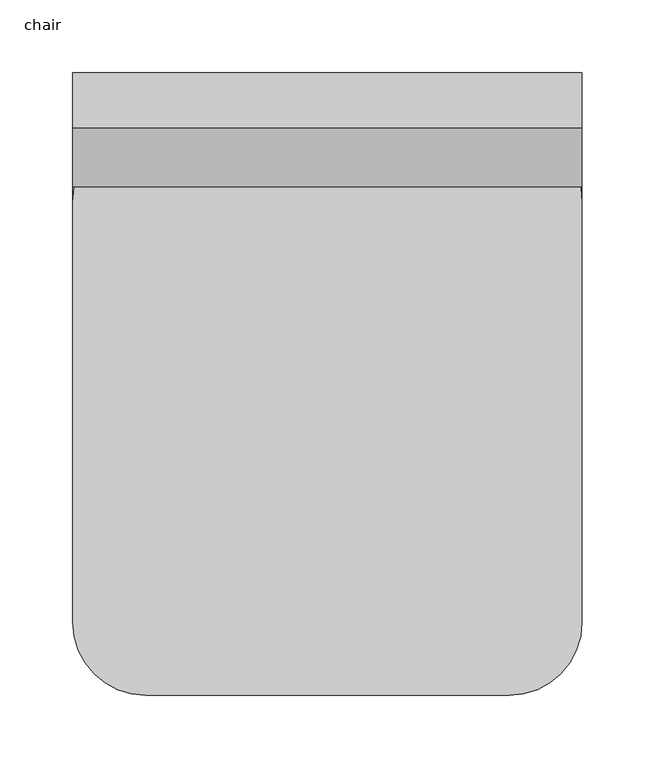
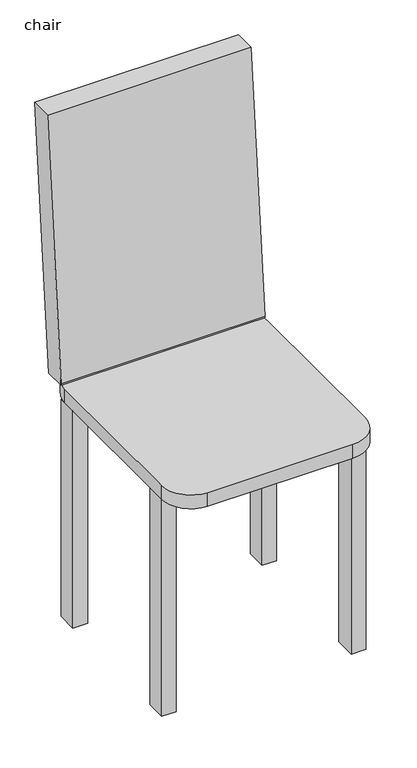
"""IFC4 building model written with IfcOpenShell, lengths in millimetres: furniture geometry, Fu_стул_LEG : chair."""

from ifc_helpers import new_model, si_unit, point, frame, frame_2d, origin, place, context, project, spatial, polyline, circle_curve, trimmed, segment, composite_curve, outline, extrude, source, transform, mapped, element, save


def chair_43e23103(model_context):
    return source(origin(), model_context, "Body", "SweptSolid", [
        extrude(outline(composite_curve([segment(polyline([(-153.2, 140.9469039), (96.8, 140.9469039)]), True, "CONTINUOUS"), segment(trimmed(circle_curve(frame_2d((96.8, 90.9469039)), 50.0), [point((96.8, 140.9469039))], [point((146.8, 90.9469039))], False, "CARTESIAN"), True, "CONTINUOUS"), segment(polyline([(146.8, 90.9469039), (146.8, -197.6)]), True, "CONTINUOUS"), segment(trimmed(circle_curve(frame_2d((96.8, -197.6)), 50.0), [point((146.8, -197.6))], [point((96.8, -247.6))], False, "CARTESIAN"), True, "CONTINUOUS"), segment(polyline([(96.8, -247.6), (-153.2, -247.6)]), True, "CONTINUOUS"), segment(trimmed(circle_curve(frame_2d((-153.2, -197.6)), 50.0), [point((-153.2, -247.6))], [point((-203.2, -197.6))], False, "CARTESIAN"), True, "CONTINUOUS"), segment(polyline([(-203.2, -197.6), (-203.2, 90.9469039)]), True, "CONTINUOUS"), segment(trimmed(circle_curve(frame_2d((-153.2, 90.9469039)), 50.0), [point((-203.2, 90.9469039))], [point((-153.2, 140.9469039))], False, "CARTESIAN"), True, "CONTINUOUS")], self_intersect=False)), frame((0.0, 0.0, 406.4), z_axis=(0.0, 0.0, 1.0), x_axis=(1.0, 0.0, 0.0)), (0.0, 0.0, 1.0), 25.0),
        extrude(outline(polyline([(-178.2, -197.6), (-203.2, -197.6), (-203.2, -162.6), (-178.2, -162.6), (-178.2, -197.6)])), frame((0.0, 0.0, 12.3), z_axis=(0.0, 0.0, 1.0), x_axis=(1.0, 0.0, 0.0)), (0.0, 0.0, 1.0), 394.1),
        extrude(outline(polyline([(146.8, -198.839567), (121.8, -198.839567), (121.8, -162.6), (146.8, -162.6), (146.8, -198.839567)])), frame((0.0, 0.0, 12.3), z_axis=(0.0, 0.0, 1.0), x_axis=(1.0, 0.0, 0.0)), (0.0, 0.0, 1.0), 394.1),
        extrude(outline(polyline([(-178.2, 66.5143569), (-203.2, 66.5143569), (-203.2, 101.5143569), (-178.2, 101.5143569), (-178.2, 66.5143569)])), frame((0.0, 0.0, 12.3), z_axis=(0.0, 0.0, 1.0), x_axis=(1.0, 0.0, 0.0)), (0.0, 0.0, 1.0), 394.1),
        extrude(outline(polyline([(146.8, 66.5143569), (121.8, 66.5143569), (121.8, 101.5143569), (146.8, 101.5143569), (146.8, 66.5143569)])), frame((0.0, 0.0, 12.3), z_axis=(0.0, 0.0, 1.0), x_axis=(1.0, 0.0, 0.0)), (0.0, 0.0, 1.0), 394.1),
        extrude(outline(polyline([(138.8692142, 431.4), (101.5143569, 431.4), (101.5143569, 434.6962747), (142.0230145, 897.7123493), (179.6662584, 897.7123493), (138.8692142, 431.4)])), frame((-203.2, 0.0, 0.0), z_axis=(1.0, 0.0, 0.0), x_axis=(0.0, 1.0, 0.0)), (0.0, 0.0, 1.0), 350.0),
    ])


if __name__ == "__main__":
    model = new_model("IFC4")
    model_context = context("Model", 3, world=origin())
    ifc_project = project(units=[si_unit("LENGTHUNIT", "METRE", prefix="MILLI")], contexts=[model_context])
    site = spatial("IfcSite", under=ifc_project)
    building = spatial("IfcBuilding", under=site)
    placement = place(None, origin())
    chair_shape = chair_43e23103(model_context)
    element("IfcFurniture", 1, ObjectType="Fu_стул_LEG : chair", at=placement, inside=building, context=model_context, shape_type="MappedRepresentation", body=[
        mapped(chair_shape, transform((0.0, 0.0, 0.0), x_axis=(1.0, 0.0, 0.0), y_axis=(0.0, 1.0, 0.0), z_axis=(0.0, 0.0, 1.0))),
    ])
    save(model, "model.ifc")
